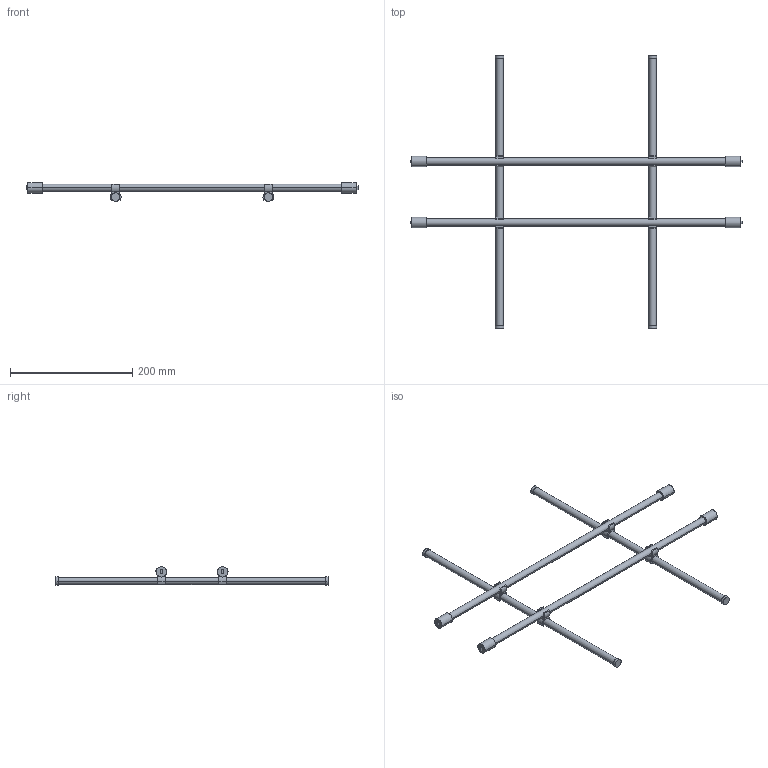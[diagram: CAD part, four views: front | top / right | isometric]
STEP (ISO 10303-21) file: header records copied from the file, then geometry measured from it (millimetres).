
FILE_DESCRIPTION (( 'STEP AP214' ), '1' );
FILE_NAME ('Magic-Classic_NL-480-KAB 600.step', '2010-09-16T12:49:19', ( 'grass' ), ( '' ), 'SwSTEP 2.0', 'SolidWorks 2010', '' );
FILE_SCHEMA (( 'AUTOMOTIVE_DESIGN' ));
Length unit declared in the file: millimetre
Products named in the file (1): Magic-Classic_NL-480-KAB 600
Bounding box: 543 x 445 x 30.45 mm (x, y, z)
Volume: 242678 mm3; surface area: 80575.3 mm2
Topology: 1 solids, 1 shells, 140 faces, 384 edges, 256 vertices
Faces by surface type: plane 76, cylinder 64
Entity records: 4546 total; most frequent: DIRECTION 826, CARTESIAN_POINT 781, ORIENTED_EDGE 768, EDGE_CURVE 384, AXIS2_PLACEMENT_3D 301, VERTEX_POINT 256, VECTOR 224, LINE 224
